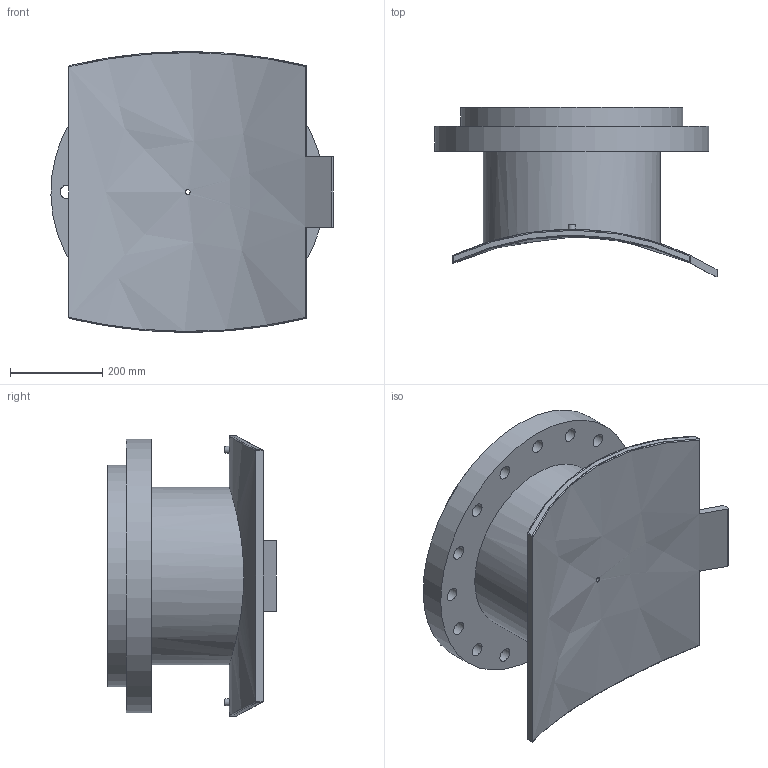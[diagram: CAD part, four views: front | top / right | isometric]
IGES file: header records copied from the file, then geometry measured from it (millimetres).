
Global section: file name: 4959031200400T; native system: Autodesk Inventor 2019; preprocessor: unknown; author: KIM; date: 20240403.210837; units: millimetre
Bounding box: 613.12 x 367.21 x 609.96 mm (x, y, z)
Volume: 24805523 mm3; surface area: 1752520.3 mm2
Topology: 1 solids, 1 shells, 66 faces, 175 edges, 134 vertices
Faces by surface type: bspline 66
